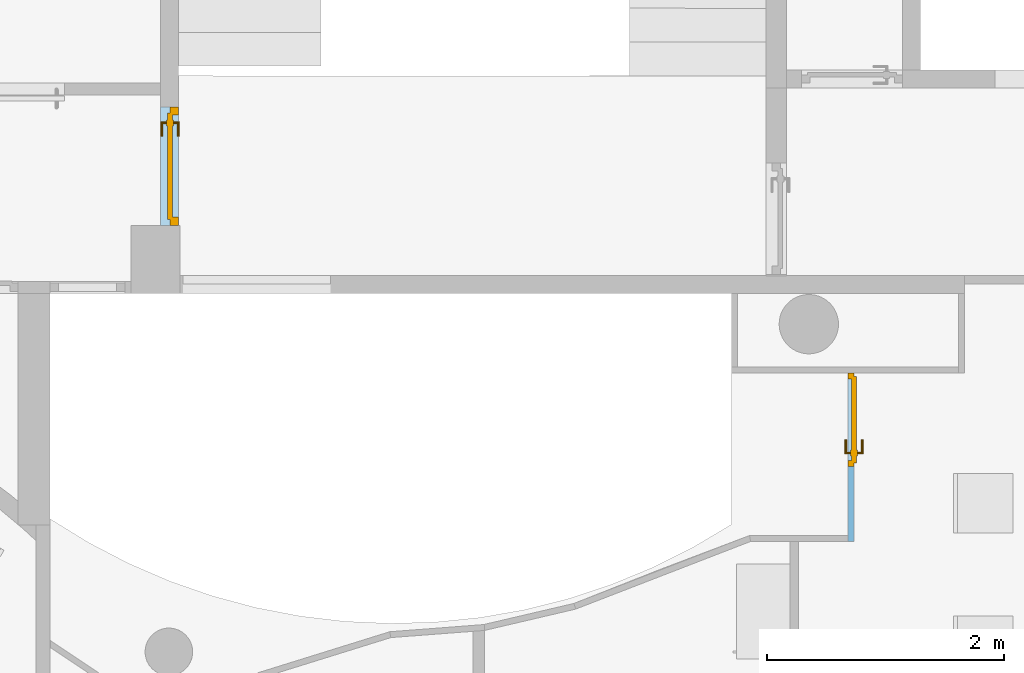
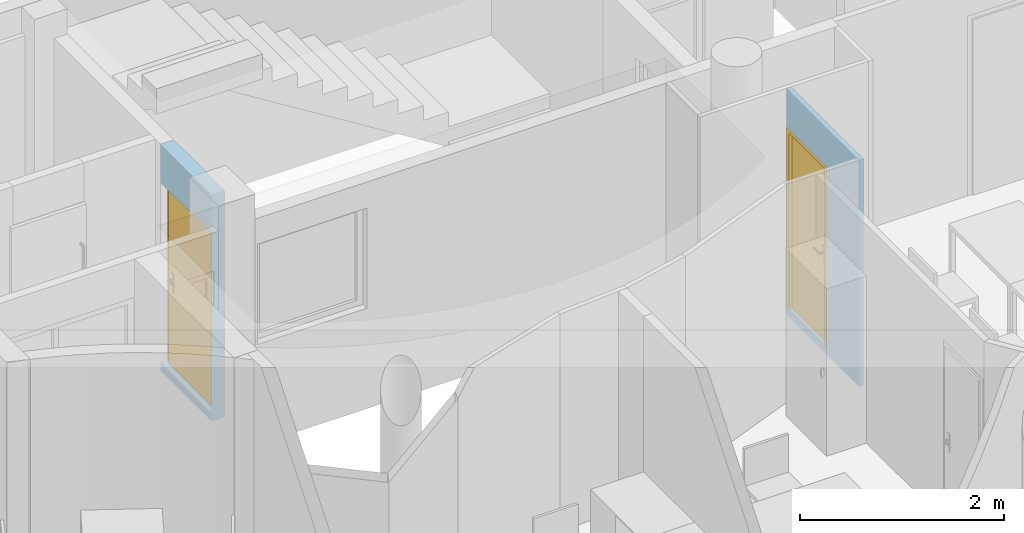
"""IFC4 building model written with IfcOpenShell, lengths in metres."""

from ifc_helpers import new_model, entity, si_unit, converted_unit, derived_unit, frame, frame_2d, origin, origin_with_axes, place, context, subcontext, project, spatial, polyline, rectangle, outline, extrude, faceted_brep, source, transform, mapped, material, layer, layer_set, layer_usage, element, fill, save


model = new_model("IFC4")

# Units and contexts
model_context = context("Model", 3, precision=1e-05, world=origin())
body_context = subcontext(model_context, "Body", "Model", "MODEL_VIEW")
ifc_project = project(units=[si_unit("LENGTHUNIT", "METRE"), si_unit("AREAUNIT", "SQUARE_METRE"), si_unit("VOLUMEUNIT", "CUBIC_METRE"), si_unit("MASSUNIT", "GRAM", prefix="KILO"), converted_unit("PLANEANGLEUNIT", "DEGREE", entity("IfcPlaneAngleMeasure", 0.0174532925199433), si_unit("PLANEANGLEUNIT", "RADIAN"), dimensions=[0, 0, 0, 0, 0, 0, 0]), derived_unit("THERMALTRANSMITTANCEUNIT", [(si_unit("POWERUNIT", "WATT"), 1), (si_unit("THERMODYNAMICTEMPERATUREUNIT", "KELVIN"), -1), (si_unit("LENGTHUNIT", "METRE"), -2)]), derived_unit("VOLUMETRICFLOWRATEUNIT", [(si_unit("LENGTHUNIT", "METRE"), 3), (converted_unit("TIMEUNIT", "hour", entity("IfcTimeMeasure", 3600.0), si_unit("TIMEUNIT", "SECOND"), dimensions=[0, 0, 1, 0, 0, 0, 0]), -1), (si_unit("LENGTHUNIT", "METRE"), -1)])], contexts=[model_context])

# Building, storeys
building_placement = place(None, origin())
building = spatial("IfcBuilding", under=ifc_project, at=building_placement, Name="HABITATGE PLURIFAMILIAR", CompositionType="ELEMENT")
storey_1_placement = place(building_placement, frame((0.0, 0.0, 6.25)))
storey_1 = spatial("IfcBuildingStorey", under=building, at=storey_1_placement, Name="PLANTA PRIMERA", CompositionType="ELEMENT", Elevation=6.25)
storey_2_placement = place(storey_1_placement, frame((0.0, 0.0, 3.35)))
storey_2 = spatial("IfcBuildingStorey", under=storey_1, at=storey_2_placement, Name="NOU", CompositionType="PARTIAL")

# Wall, opening, door
ifc_material_1 = material()
ifc_layer_1 = layer(ifc_material_1, 0.05)
ifc_layer_set_1 = layer_set([ifc_layer_1])
ifc_layer_usage_1 = layer_usage(ifc_layer_set_1, "AXIS2", "POSITIVE", 0.0)
wall_1_placement = place(storey_2_placement, frame((416.516984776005, 22.0694598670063, -3.45), z_axis=(0.0, 0.0, 1.0), x_axis=(0.0, 1.0, 0.0)))
wall_1 = element("IfcWall", 1, at=wall_1_placement, inside=storey_2, material=ifc_layer_usage_1, Name="Mampara P1", context=body_context, shape_type="SweptSolid", body=[
    extrude(rectangle(XDim=1.42000000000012, YDim=0.05, at=frame_2d((0.710000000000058, 0.025), x_axis=(1.0, 0.0))), origin_with_axes(), (0.0, 0.0, 1.0), 2.71),
])
opening_1_placement = place(wall_1_placement, frame((1.42000000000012, 0.05, 0.1), z_axis=(0.0, -1.0, 0.0), x_axis=(0.0, 0.0, 1.0)))
opening_1 = element("IfcOpeningElement", 2, at=opening_1_placement, cuts=wall_1, Name="Vano de puerta P1", ObjectType="Opening", context=body_context, shape_type="SweptSolid", body=[
    extrude(outline(polyline([(2.15, 0.790166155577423), (2.15, 0.0), (0.0, 0.0), (0.0, 0.790166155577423), (2.15, 0.790166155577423)])), origin_with_axes(), (0.0, 0.0, 1.0), 0.05),
])
shared_shape_1 = source(origin_with_axes(), body_context, "Body", "Brep", [
    faceted_brep([(0.79016615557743, 0.0499999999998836, 2.15), (0.740166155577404, 0.0499999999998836, 2.15), (0.740166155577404, 0.0499999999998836, 0.0), (0.79016615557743, 0.0499999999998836, 0.0), (0.79016615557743, 0.0, 0.0), (0.740166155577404, 0.0, 0.0), (0.740166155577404, 0.0, 2.15), (0.79016615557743, 0.0, 2.15)], [[[0, 1, 2, 3]], [[4, 5, 6, 7]], [[3, 4, 7, 0]], [[2, 5, 4, 3]], [[1, 6, 5, 2]], [[0, 7, 6, 1]]], orient=[[False], [False], [False], [False], [False], [False]]),
    faceted_brep([(0.0500000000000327, 0.0499999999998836, 2.15), (0.0, 0.0499999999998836, 2.15), (0.0, 0.0499999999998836, 0.0), (0.0500000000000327, 0.0499999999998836, 0.0), (0.0500000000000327, 0.0, 0.0), (0.0, 0.0, 0.0), (0.0, 0.0, 2.15), (0.0500000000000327, 0.0, 2.15)], [[[0, 1, 2, 3]], [[4, 5, 6, 7]], [[3, 4, 7, 0]], [[2, 5, 4, 3]], [[1, 6, 5, 2]], [[0, 7, 6, 1]]], orient=[[False], [False], [False], [False], [False], [False]]),
    faceted_brep([(0.740166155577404, 0.0499999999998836, 2.15), (0.0500000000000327, 0.0499999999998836, 2.15), (0.0500000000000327, 0.0499999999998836, 2.1), (0.740166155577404, 0.0499999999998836, 2.1), (0.740166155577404, 0.0, 2.1), (0.0500000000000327, 0.0, 2.1), (0.0500000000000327, 0.0, 2.15), (0.740166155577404, 0.0, 2.15)], [[[0, 1, 2, 3]], [[4, 5, 6, 7]], [[3, 4, 7, 0]], [[2, 5, 4, 3]], [[1, 6, 5, 2]], [[0, 7, 6, 1]]], orient=[[False], [False], [False], [False], [False], [False]]),
    faceted_brep([(0.760166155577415, 0.0699999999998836, 2.12), (0.0300000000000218, 0.0699999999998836, 2.12), (0.0300000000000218, 0.0699999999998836, 0.0), (0.760166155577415, 0.0699999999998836, 0.0), (0.760166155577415, 0.0299999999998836, 0.0), (0.0300000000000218, 0.0299999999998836, 0.0), (0.0300000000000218, 0.0299999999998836, 2.12), (0.760166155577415, 0.0299999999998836, 2.12)], [[[0, 1, 2, 3]], [[4, 5, 6, 7]], [[3, 4, 7, 0]], [[2, 5, 4, 3]], [[1, 6, 5, 2]], [[0, 7, 6, 1]]], orient=[[False], [False], [False], [False], [False], [False]]),
    faceted_brep([(0.700166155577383, 0.0299999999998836, 1.125), (0.650166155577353, 0.0299999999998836, 1.125), (0.650166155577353, 0.0299999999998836, 0.91), (0.700166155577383, 0.0299999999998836, 0.91), (0.700166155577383, 0.0199999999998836, 0.91), (0.650166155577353, 0.0199999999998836, 0.91), (0.650166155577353, 0.0199999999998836, 1.125), (0.700166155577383, 0.0199999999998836, 1.125)], [[[0, 1, 2, 3]], [[4, 5, 6, 7]], [[3, 4, 7, 0]], [[2, 5, 4, 3]], [[1, 6, 5, 2]], [[0, 7, 6, 1]]], orient=[[False], [False], [False], [False], [False], [False]]),
    faceted_brep([(0.675166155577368, 0.0199999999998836, 1.06), (0.670166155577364, 0.0199999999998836, 1.05866025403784), (0.66650590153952, 0.0199999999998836, 1.055), (0.665166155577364, 0.0199999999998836, 1.05), (0.66650590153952, 0.0199999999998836, 1.045), (0.670166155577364, 0.0199999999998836, 1.04133974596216), (0.675166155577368, 0.0199999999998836, 1.04), (0.680166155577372, 0.0199999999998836, 1.04133974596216), (0.683826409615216, 0.0199999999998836, 1.045), (0.685166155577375, 0.0199999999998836, 1.05), (0.683826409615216, 0.0199999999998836, 1.055), (0.680166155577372, 0.0199999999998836, 1.05866025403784), (0.680166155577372, -0.0250000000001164, 1.05866025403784), (0.675166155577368, -0.0200000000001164, 1.06), (0.683826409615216, -0.028660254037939, 1.055), (0.685166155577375, -0.0300000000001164, 1.05), (0.683826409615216, -0.028660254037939, 1.045), (0.680166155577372, -0.0250000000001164, 1.04133974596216), (0.675166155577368, -0.0200000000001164, 1.04), (0.670166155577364, -0.0150000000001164, 1.04133974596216), (0.66650590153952, -0.0113397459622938, 1.045), (0.665166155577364, -0.0100000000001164, 1.05), (0.66650590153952, -0.0113397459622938, 1.055), (0.670166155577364, -0.0150000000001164, 1.05866025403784), (0.560166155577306, -0.0200000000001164, 1.06), (0.560166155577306, -0.0250000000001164, 1.05866025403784), (0.560166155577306, -0.028660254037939, 1.055), (0.560166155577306, -0.0300000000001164, 1.05), (0.560166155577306, -0.028660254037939, 1.045), (0.560166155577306, -0.0250000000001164, 1.04133974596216), (0.560166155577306, -0.0200000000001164, 1.04), (0.560166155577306, -0.0150000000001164, 1.04133974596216), (0.560166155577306, -0.0113397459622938, 1.045), (0.560166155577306, -0.0100000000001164, 1.05), (0.560166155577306, -0.0113397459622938, 1.055), (0.560166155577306, -0.0150000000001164, 1.05866025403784)], [[[0, 1, 2, 3, 4, 5, 6, 7, 8, 9, 10, 11]], [[0, 11, 12, 13]], [[11, 10, 14, 12]], [[10, 9, 15, 14]], [[9, 8, 16, 15]], [[8, 7, 17, 16]], [[7, 6, 18, 17]], [[6, 5, 19, 18]], [[5, 4, 20, 19]], [[4, 3, 21, 20]], [[3, 2, 22, 21]], [[2, 1, 23, 22]], [[1, 0, 13, 23]], [[24, 25, 26, 27, 28, 29, 30, 31, 32, 33, 34, 35]], [[13, 12, 25, 24]], [[12, 14, 26, 25]], [[14, 15, 27, 26]], [[15, 16, 28, 27]], [[16, 17, 29, 28]], [[17, 18, 30, 29]], [[18, 19, 31, 30]], [[19, 20, 32, 31]], [[20, 21, 33, 32]], [[21, 22, 34, 33]], [[22, 23, 35, 34]], [[23, 13, 24, 35]]], orient=[[False], [False], [False], [False], [False], [False], [False], [False], [False], [False], [False], [False], [False], [False], [False], [False], [False], [False], [False], [False], [False], [False], [False], [False], [False], [False]]),
    faceted_brep([(0.700166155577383, 0.0699999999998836, 1.125), (0.700166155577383, 0.0699999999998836, 0.91), (0.650166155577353, 0.0699999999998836, 0.91), (0.650166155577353, 0.0699999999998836, 1.125), (0.700166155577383, 0.0799999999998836, 0.91), (0.700166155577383, 0.0799999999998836, 1.125), (0.650166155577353, 0.0799999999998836, 1.125), (0.650166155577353, 0.0799999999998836, 0.91)], [[[0, 1, 2, 3]], [[4, 5, 6, 7]], [[1, 0, 5, 4]], [[2, 1, 4, 7]], [[3, 2, 7, 6]], [[0, 3, 6, 5]]], orient=[[False], [False], [False], [False], [False], [False]]),
    faceted_brep([(0.675166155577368, 0.0799999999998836, 1.06), (0.680166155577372, 0.0799999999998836, 1.05866025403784), (0.683826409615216, 0.0799999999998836, 1.055), (0.685166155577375, 0.0799999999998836, 1.05), (0.683826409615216, 0.0799999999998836, 1.045), (0.680166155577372, 0.0799999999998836, 1.04133974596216), (0.675166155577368, 0.0799999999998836, 1.04), (0.670166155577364, 0.0799999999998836, 1.04133974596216), (0.66650590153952, 0.0799999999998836, 1.045), (0.665166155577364, 0.0799999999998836, 1.05), (0.66650590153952, 0.0799999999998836, 1.055), (0.670166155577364, 0.0799999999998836, 1.05866025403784), (0.675166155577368, 0.119999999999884, 1.06), (0.680166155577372, 0.124999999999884, 1.05866025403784), (0.683826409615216, 0.128660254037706, 1.055), (0.685166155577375, 0.129999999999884, 1.05), (0.683826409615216, 0.128660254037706, 1.045), (0.680166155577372, 0.124999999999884, 1.04133974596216), (0.675166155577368, 0.119999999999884, 1.04), (0.670166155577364, 0.114999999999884, 1.04133974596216), (0.66650590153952, 0.111339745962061, 1.045), (0.665166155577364, 0.109999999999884, 1.05), (0.66650590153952, 0.111339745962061, 1.055), (0.670166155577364, 0.114999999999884, 1.05866025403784), (0.560166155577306, 0.119999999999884, 1.06), (0.560166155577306, 0.114999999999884, 1.05866025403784), (0.560166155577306, 0.111339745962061, 1.055), (0.560166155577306, 0.109999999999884, 1.05), (0.560166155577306, 0.111339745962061, 1.045), (0.560166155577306, 0.114999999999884, 1.04133974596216), (0.560166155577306, 0.119999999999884, 1.04), (0.560166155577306, 0.124999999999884, 1.04133974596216), (0.560166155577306, 0.128660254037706, 1.045), (0.560166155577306, 0.129999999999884, 1.05), (0.560166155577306, 0.128660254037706, 1.055), (0.560166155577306, 0.124999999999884, 1.05866025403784)], [[[0, 1, 2, 3, 4, 5, 6, 7, 8, 9, 10, 11]], [[0, 12, 13, 1]], [[1, 13, 14, 2]], [[2, 14, 15, 3]], [[3, 15, 16, 4]], [[4, 16, 17, 5]], [[5, 17, 18, 6]], [[6, 18, 19, 7]], [[7, 19, 20, 8]], [[8, 20, 21, 9]], [[9, 21, 22, 10]], [[10, 22, 23, 11]], [[11, 23, 12, 0]], [[24, 25, 26, 27, 28, 29, 30, 31, 32, 33, 34, 35]], [[12, 24, 35, 13]], [[13, 35, 34, 14]], [[14, 34, 33, 15]], [[15, 33, 32, 16]], [[16, 32, 31, 17]], [[17, 31, 30, 18]], [[18, 30, 29, 19]], [[19, 29, 28, 20]], [[20, 28, 27, 21]], [[21, 27, 26, 22]], [[22, 26, 25, 23]], [[23, 25, 24, 12]]], orient=[[False], [False], [False], [False], [False], [False], [False], [False], [False], [False], [False], [False], [False], [False], [False], [False], [False], [False], [False], [False], [False], [False], [False], [False], [False], [False]]),
])
door_1_placement = place(opening_1_placement, frame((0.0, 0.0, 0.0), z_axis=(1.0, 0.0, 0.0), x_axis=(0.0, 1.0, 0.0)))
door_1 = element("IfcDoor", 3, at=door_1_placement, inside=storey_2, Name="Porta P1", OperationType="USERDEFINED", OverallHeight=2.15, OverallWidth=0.79017, PredefinedType="DOOR", context=body_context, shape_type="MappedRepresentation", body=[
    mapped(shared_shape_1, transform((0.0, 0.0, 0.0), x_axis=(1.0, 0.0, 0.0), y_axis=(0.0, 1.0, 0.0), z_axis=(0.0, 0.0, 1.0), scale=1.0)),
])
fill(opening_1, door_1)

ifc_material_2 = material()
ifc_layer_2 = layer(ifc_material_2, 0.15)
ifc_layer_set_2 = layer_set([ifc_layer_2])
ifc_layer_usage_2 = layer_usage(ifc_layer_set_2, "AXIS2", "POSITIVE", 0.0)
wall_2_placement = place(storey_2_placement, frame((410.826984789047, 24.7294598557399, -3.45), z_axis=(0.0, 0.0, 1.0), x_axis=(0.0, 1.0, 0.0)))
wall_2 = element("IfcWall", 4, at=wall_2_placement, inside=storey_2, material=ifc_layer_usage_2, Name="Envans P1", context=body_context, shape_type="SweptSolid", body=[
    extrude(rectangle(XDim=0.99999999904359, YDim=0.15, at=frame_2d((0.499999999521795, 0.075), x_axis=(1.0, 0.0))), origin_with_axes(), (0.0, 0.0, 1.0), 2.71),
])
opening_2_placement = place(wall_2_placement, frame((0.00097200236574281, 0.0, 0.1), z_axis=(0.0, 1.0, 0.0), x_axis=(0.0, 0.0, 1.0)))
opening_2 = element("IfcOpeningElement", 5, at=opening_2_placement, cuts=wall_2, Name="Vano de puerta P1", ObjectType="Opening", context=body_context, shape_type="SweptSolid", body=[
    extrude(outline(polyline([(2.15, 0.999027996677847), (2.15, 0.0), (0.0, 0.0), (0.0, 0.999027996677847), (2.15, 0.999027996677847)])), origin_with_axes(), (0.0, 0.0, 1.0), 0.15),
])
shared_shape_2 = source(origin_with_axes(), body_context, "Body", "Brep", [
    faceted_brep([(0.999027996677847, 0.03, 2.15), (0.929027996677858, 0.03, 2.15), (0.929027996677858, 0.03, 0.0), (0.999027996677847, 0.03, 0.0), (0.999027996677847, -0.04, 0.0), (0.929027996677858, -0.04, 0.0), (0.929027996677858, -0.04, 2.15), (0.999027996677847, -0.04, 2.15)], [[[0, 1, 2, 3]], [[4, 5, 6, 7]], [[3, 4, 7, 0]], [[2, 5, 4, 3]], [[1, 6, 5, 2]], [[0, 7, 6, 1]]], orient=[[False], [False], [False], [False], [False], [False]]),
    faceted_brep([(0.0699999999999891, 0.03, 2.15), (0.0, 0.03, 2.15), (0.0, 0.03, 0.0), (0.0699999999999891, 0.03, 0.0), (0.0699999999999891, -0.04, 0.0), (0.0, -0.04, 0.0), (0.0, -0.04, 2.15), (0.0699999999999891, -0.04, 2.15)], [[[0, 1, 2, 3]], [[4, 5, 6, 7]], [[3, 4, 7, 0]], [[2, 5, 4, 3]], [[1, 6, 5, 2]], [[0, 7, 6, 1]]], orient=[[False], [False], [False], [False], [False], [False]]),
    faceted_brep([(0.929027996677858, 0.03, 2.15), (0.0699999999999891, 0.03, 2.15), (0.0699999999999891, 0.03, 2.08), (0.929027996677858, 0.03, 2.08), (0.929027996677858, -0.04, 2.08), (0.0699999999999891, -0.04, 2.08), (0.0699999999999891, -0.04, 2.15), (0.929027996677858, -0.04, 2.15)], [[[0, 1, 2, 3]], [[4, 5, 6, 7]], [[3, 4, 7, 0]], [[2, 5, 4, 3]], [[1, 6, 5, 2]], [[0, 7, 6, 1]]], orient=[[False], [False], [False], [False], [False], [False]]),
    faceted_brep([(0.949027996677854, 0.05, 2.1), (0.0499999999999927, 0.05, 2.1), (0.0499999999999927, 0.05, 0.0), (0.949027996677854, 0.05, 0.0), (0.949027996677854, 0.01, 0.0), (0.0499999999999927, 0.01, 0.0), (0.0499999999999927, 0.01, 2.1), (0.949027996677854, 0.01, 2.1)], [[[0, 1, 2, 3]], [[4, 5, 6, 7]], [[3, 4, 7, 0]], [[2, 5, 4, 3]], [[1, 6, 5, 2]], [[0, 7, 6, 1]]], orient=[[False], [False], [False], [False], [False], [False]]),
    faceted_brep([(0.889027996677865, 0.01, 1.125), (0.839027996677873, 0.01, 1.125), (0.839027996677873, 0.01, 0.91), (0.889027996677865, 0.01, 0.91), (0.889027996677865, 0.0, 0.91), (0.839027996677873, 0.0, 0.91), (0.839027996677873, 0.0, 1.125), (0.889027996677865, 0.0, 1.125)], [[[0, 1, 2, 3]], [[4, 5, 6, 7]], [[3, 4, 7, 0]], [[2, 5, 4, 3]], [[1, 6, 5, 2]], [[0, 7, 6, 1]]], orient=[[False], [False], [False], [False], [False], [False]]),
    faceted_brep([(0.864027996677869, 0.0, 1.06), (0.859027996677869, 0.0, 1.05866025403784), (0.855367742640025, 0.0, 1.055), (0.854027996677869, 0.0, 1.05), (0.855367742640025, 0.0, 1.045), (0.859027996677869, 0.0, 1.04133974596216), (0.864027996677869, 0.0, 1.04), (0.869027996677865, 0.0, 1.04133974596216), (0.87268825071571, 0.0, 1.045), (0.874027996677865, 0.0, 1.05), (0.87268825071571, 0.0, 1.055), (0.869027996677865, 0.0, 1.05866025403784), (0.869027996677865, -0.045, 1.05866025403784), (0.864027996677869, -0.04, 1.06), (0.87268825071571, -0.0486602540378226, 1.055), (0.874027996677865, -0.05, 1.05), (0.87268825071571, -0.0486602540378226, 1.045), (0.869027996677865, -0.045, 1.04133974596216), (0.864027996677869, -0.04, 1.04), (0.859027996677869, -0.035, 1.04133974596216), (0.855367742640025, -0.0313397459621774, 1.045), (0.854027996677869, -0.03, 1.05), (0.855367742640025, -0.0313397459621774, 1.055), (0.859027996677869, -0.035, 1.05866025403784), (0.749027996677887, -0.04, 1.06), (0.749027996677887, -0.045, 1.05866025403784), (0.749027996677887, -0.0486602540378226, 1.055), (0.749027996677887, -0.05, 1.05), (0.749027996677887, -0.0486602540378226, 1.045), (0.749027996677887, -0.045, 1.04133974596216), (0.749027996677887, -0.04, 1.04), (0.749027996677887, -0.035, 1.04133974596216), (0.749027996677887, -0.0313397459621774, 1.045), (0.749027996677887, -0.03, 1.05), (0.749027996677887, -0.0313397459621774, 1.055), (0.749027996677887, -0.035, 1.05866025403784)], [[[0, 1, 2, 3, 4, 5, 6, 7, 8, 9, 10, 11]], [[0, 11, 12, 13]], [[11, 10, 14, 12]], [[10, 9, 15, 14]], [[9, 8, 16, 15]], [[8, 7, 17, 16]], [[7, 6, 18, 17]], [[6, 5, 19, 18]], [[5, 4, 20, 19]], [[4, 3, 21, 20]], [[3, 2, 22, 21]], [[2, 1, 23, 22]], [[1, 0, 13, 23]], [[24, 25, 26, 27, 28, 29, 30, 31, 32, 33, 34, 35]], [[13, 12, 25, 24]], [[12, 14, 26, 25]], [[14, 15, 27, 26]], [[15, 16, 28, 27]], [[16, 17, 29, 28]], [[17, 18, 30, 29]], [[18, 19, 31, 30]], [[19, 20, 32, 31]], [[20, 21, 33, 32]], [[21, 22, 34, 33]], [[22, 23, 35, 34]], [[23, 13, 24, 35]]], orient=[[False], [False], [False], [False], [False], [False], [False], [False], [False], [False], [False], [False], [False], [False], [False], [False], [False], [False], [False], [False], [False], [False], [False], [False], [False], [False]]),
    faceted_brep([(0.889027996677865, 0.05, 1.125), (0.889027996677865, 0.05, 0.91), (0.839027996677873, 0.05, 0.91), (0.839027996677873, 0.05, 1.125), (0.889027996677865, 0.06, 0.91), (0.889027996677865, 0.06, 1.125), (0.839027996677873, 0.06, 1.125), (0.839027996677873, 0.06, 0.91)], [[[0, 1, 2, 3]], [[4, 5, 6, 7]], [[1, 0, 5, 4]], [[2, 1, 4, 7]], [[3, 2, 7, 6]], [[0, 3, 6, 5]]], orient=[[False], [False], [False], [False], [False], [False]]),
    faceted_brep([(0.864027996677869, 0.06, 1.06), (0.869027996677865, 0.06, 1.05866025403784), (0.87268825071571, 0.06, 1.055), (0.874027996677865, 0.06, 1.05), (0.87268825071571, 0.06, 1.045), (0.869027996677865, 0.06, 1.04133974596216), (0.864027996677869, 0.06, 1.04), (0.859027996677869, 0.06, 1.04133974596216), (0.855367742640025, 0.06, 1.045), (0.854027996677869, 0.06, 1.05), (0.855367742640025, 0.06, 1.055), (0.859027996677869, 0.06, 1.05866025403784), (0.864027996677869, 0.1, 1.06), (0.869027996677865, 0.105, 1.05866025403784), (0.87268825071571, 0.108660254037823, 1.055), (0.874027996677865, 0.11, 1.05), (0.87268825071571, 0.108660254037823, 1.045), (0.869027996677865, 0.105, 1.04133974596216), (0.864027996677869, 0.1, 1.04), (0.859027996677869, 0.095, 1.04133974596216), (0.855367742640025, 0.0913397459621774, 1.045), (0.854027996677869, 0.09, 1.05), (0.855367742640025, 0.0913397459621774, 1.055), (0.859027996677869, 0.095, 1.05866025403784), (0.749027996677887, 0.1, 1.06), (0.749027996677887, 0.095, 1.05866025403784), (0.749027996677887, 0.0913397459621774, 1.055), (0.749027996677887, 0.09, 1.05), (0.749027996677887, 0.0913397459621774, 1.045), (0.749027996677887, 0.095, 1.04133974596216), (0.749027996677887, 0.1, 1.04), (0.749027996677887, 0.105, 1.04133974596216), (0.749027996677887, 0.108660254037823, 1.045), (0.749027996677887, 0.11, 1.05), (0.749027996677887, 0.108660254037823, 1.055), (0.749027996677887, 0.105, 1.05866025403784)], [[[0, 1, 2, 3, 4, 5, 6, 7, 8, 9, 10, 11]], [[0, 12, 13, 1]], [[1, 13, 14, 2]], [[2, 14, 15, 3]], [[3, 15, 16, 4]], [[4, 16, 17, 5]], [[5, 17, 18, 6]], [[6, 18, 19, 7]], [[7, 19, 20, 8]], [[8, 20, 21, 9]], [[9, 21, 22, 10]], [[10, 22, 23, 11]], [[11, 23, 12, 0]], [[24, 25, 26, 27, 28, 29, 30, 31, 32, 33, 34, 35]], [[12, 24, 35, 13]], [[13, 35, 34, 14]], [[14, 34, 33, 15]], [[15, 33, 32, 16]], [[16, 32, 31, 17]], [[17, 31, 30, 18]], [[18, 30, 29, 19]], [[19, 29, 28, 20]], [[20, 28, 27, 21]], [[21, 27, 26, 22]], [[22, 26, 25, 23]], [[23, 25, 24, 12]]], orient=[[False], [False], [False], [False], [False], [False], [False], [False], [False], [False], [False], [False], [False], [False], [False], [False], [False], [False], [False], [False], [False], [False], [False], [False], [False], [False]]),
])
door_2_placement = place(opening_2_placement, frame((0.0, 0.0, 0.04), z_axis=(1.0, 0.0, 0.0), x_axis=(0.0, 1.0, 0.0)))
door_2 = element("IfcDoor", 6, at=door_2_placement, inside=storey_2, Name="Porta P1", OperationType="USERDEFINED", OverallHeight=2.15, OverallWidth=0.99903, PredefinedType="DOOR", context=body_context, shape_type="MappedRepresentation", body=[
    mapped(shared_shape_2, transform((0.0, 0.0, 0.0), x_axis=(1.0, 0.0, 0.0), y_axis=(0.0, 1.0, 0.0), z_axis=(0.0, 0.0, 1.0), scale=1.0)),
])
fill(opening_2, door_2)

save(model, "model.ifc")
